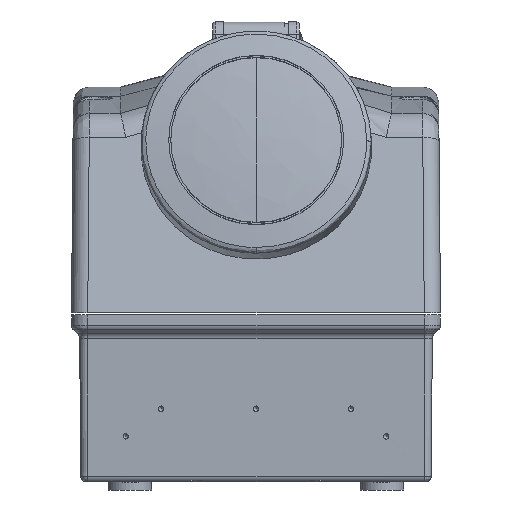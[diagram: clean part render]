
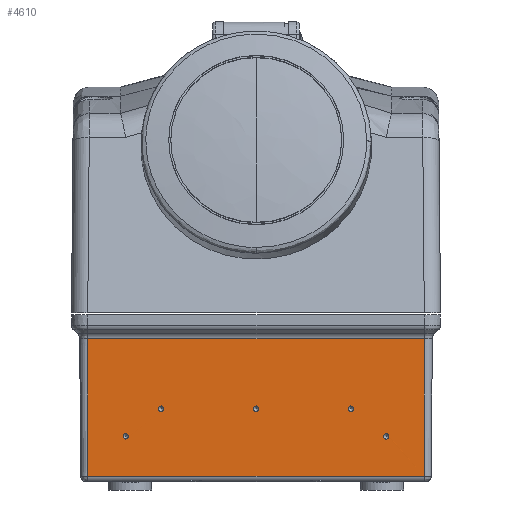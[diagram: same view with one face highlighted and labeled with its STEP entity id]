
A CAD part, front view. The second image highlights one B-rep face of the part: STEP entity #4610.
In plain terms, the highlighted planar face has unit normal (0, -1, -0.009).
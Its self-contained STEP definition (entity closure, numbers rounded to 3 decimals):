
#484=ELLIPSE('',#10531,0.977,0.977);
#485=ELLIPSE('',#10532,0.977,0.977);
#3095=PLANE('',#10533);
#3615=LINE('',#14588,#4120);
#3760=LINE('',#15313,#4265);
#3761=LINE('',#15315,#4266);
#3762=LINE('',#15317,#4267);
#4120=VECTOR('',#11546,1.);
#4265=VECTOR('',#11993,1.);
#4266=VECTOR('',#11994,1.);
#4267=VECTOR('',#11995,1.);
#4610=ADVANCED_FACE('',(#9098,#9099,#9100,#9101,#9102,#9103),#3095,.T.);
#4977=EDGE_LOOP('',(#6477));
#4978=EDGE_LOOP('',(#6478));
#4979=EDGE_LOOP('',(#6479));
#4980=EDGE_LOOP('',(#6480,#6481,#6482,#6483));
#4981=EDGE_LOOP('',(#6484));
#4982=EDGE_LOOP('',(#6485));
#5300=CIRCLE('',#10400,1.);
#5301=CIRCLE('',#10402,1.);
#5302=CIRCLE('',#10404,1.);
#6477=ORIENTED_EDGE('',*,*,#7859,.F.);
#6478=ORIENTED_EDGE('',*,*,#7860,.F.);
#6479=ORIENTED_EDGE('',*,*,#7861,.F.);
#6480=ORIENTED_EDGE('',*,*,#7833,.F.);
#6481=ORIENTED_EDGE('',*,*,#8081,.T.);
#6482=ORIENTED_EDGE('',*,*,#8082,.T.);
#6483=ORIENTED_EDGE('',*,*,#8083,.F.);
#6484=ORIENTED_EDGE('',*,*,#8084,.T.);
#6485=ORIENTED_EDGE('',*,*,#8085,.F.);
#7833=EDGE_CURVE('',#9436,#9433,#3615,.T.);
#7859=EDGE_CURVE('',#9456,#9456,#5300,.T.);
#7860=EDGE_CURVE('',#9458,#9458,#5301,.T.);
#7861=EDGE_CURVE('',#9460,#9460,#5302,.T.);
#8081=EDGE_CURVE('',#9436,#9637,#3760,.T.);
#8082=EDGE_CURVE('',#9637,#9638,#3761,.T.);
#8083=EDGE_CURVE('',#9433,#9638,#3762,.T.);
#8084=EDGE_CURVE('',#9639,#9639,#484,.T.);
#8085=EDGE_CURVE('',#9640,#9640,#485,.T.);
#9098=FACE_BOUND('',#4977,.T.);
#9099=FACE_BOUND('',#4978,.T.);
#9100=FACE_BOUND('',#4979,.T.);
#9101=FACE_BOUND('',#4980,.T.);
#9102=FACE_BOUND('',#4981,.T.);
#9103=FACE_BOUND('',#4982,.T.);
#9433=VERTEX_POINT('',#14567);
#9436=VERTEX_POINT('',#14587);
#9456=VERTEX_POINT('',#14702);
#9458=VERTEX_POINT('',#14706);
#9460=VERTEX_POINT('',#14710);
#9637=VERTEX_POINT('',#15314);
#9638=VERTEX_POINT('',#15316);
#9639=VERTEX_POINT('',#15319);
#9640=VERTEX_POINT('',#15321);
#10400=AXIS2_PLACEMENT_3D('',#14701,#11599,#11600);
#10402=AXIS2_PLACEMENT_3D('',#14705,#11603,#11604);
#10404=AXIS2_PLACEMENT_3D('',#14709,#11607,#11608);
#10531=AXIS2_PLACEMENT_3D('',#15318,#11996,#11997);
#10532=AXIS2_PLACEMENT_3D('',#15320,#11998,#11999);
#10533=AXIS2_PLACEMENT_3D('',#15322,#12000,#12001);
#11546=DIRECTION('',(0.,-0.009,1.));
#11599=DIRECTION('',(0.,-1.,-0.009));
#11600=DIRECTION('',(1.,0.,0.));
#11603=DIRECTION('',(0.,-1.,-0.009));
#11604=DIRECTION('',(1.,0.,0.));
#11607=DIRECTION('',(0.,-1.,-0.009));
#11608=DIRECTION('',(1.,0.,0.));
#11993=DIRECTION('',(1.,0.,0.));
#11994=DIRECTION('',(0.,-0.009,1.));
#11995=DIRECTION('',(1.,0.,0.));
#11996=DIRECTION('',(0.,1.,0.009));
#11997=DIRECTION('',(0.,-0.009,1.));
#11998=DIRECTION('',(0.,-1.,-0.009));
#11999=DIRECTION('',(0.,-0.009,1.));
#12000=DIRECTION('',(0.,-1.,-0.009));
#12001=DIRECTION('',(0.,-0.009,1.));
#14567=CARTESIAN_POINT('',(-9.,3.009,206.269));
#14587=CARTESIAN_POINT('',(-9.,3.452,155.483));
#14588=CARTESIAN_POINT('',(-9.,3.452,155.46));
#14701=CARTESIAN_POINT('',(88.,3.234,180.458));
#14702=CARTESIAN_POINT('',(89.,3.234,180.458));
#14705=CARTESIAN_POINT('',(18.,3.234,180.458));
#14706=CARTESIAN_POINT('',(19.,3.234,180.458));
#14709=CARTESIAN_POINT('',(53.,3.234,180.458));
#14710=CARTESIAN_POINT('',(54.,3.234,180.458));
#15313=CARTESIAN_POINT('',(115.,3.452,155.483));
#15314=CARTESIAN_POINT('',(115.,3.452,155.483));
#15315=CARTESIAN_POINT('',(115.,3.452,155.46));
#15316=CARTESIAN_POINT('',(115.,3.009,206.269));
#15317=CARTESIAN_POINT('',(53.,3.009,206.269));
#15318=CARTESIAN_POINT('',(5.,3.323,170.259));
#15319=CARTESIAN_POINT('',(5.,3.315,171.235));
#15320=CARTESIAN_POINT('',(101.,3.323,170.259));
#15321=CARTESIAN_POINT('',(101.,3.315,171.235));
#15322=CARTESIAN_POINT('',(53.,3.231,180.876));
